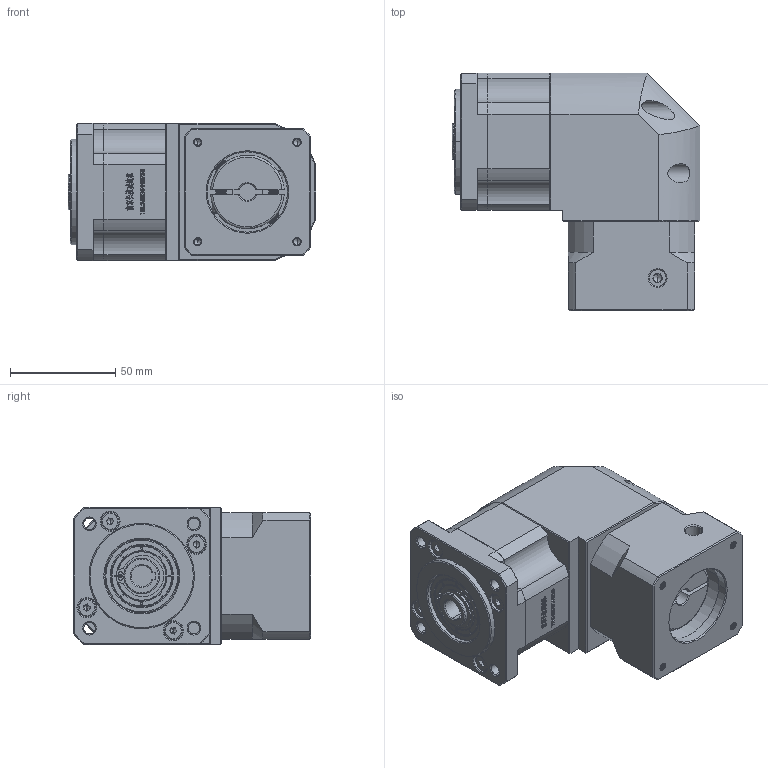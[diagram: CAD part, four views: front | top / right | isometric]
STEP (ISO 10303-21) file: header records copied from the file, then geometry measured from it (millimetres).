
FILE_DESCRIPTION (( 'STEP AP214' ), '1' );
FILE_NAME ('ZBR60-D14-L1-8-38.1-47.14x47.14-M4.STEP', '2022-04-19T08:09:38', ( '' ), ( 'Microsoft' ), 'SwSTEP 2.0', 'SolidWorks 2016', '' );
FILE_SCHEMA (( 'AUTOMOTIVE_DESIGN' ));
Length unit declared in the file: millimetre
Products named in the file (1): ZBR60-D14-L1-8-38.1-47.14x47.14-M4
Bounding box: 117.5 x 112.7 x 65 mm (x, y, z)
Volume: 523978.8 mm3; surface area: 78004.3 mm2
Topology: 5 solids, 5 shells, 2785 faces, 7549 edges, 4904 vertices
Faces by surface type: plane 1470, bspline 572, cylinder 387, cone 324, torus 32
Entity records: 146990 total; most frequent: CARTESIAN_POINT 50177, ORIENTED_EDGE 15042, DIRECTION 11561, EDGE_CURVE 7521, LINE 4989, VECTOR 4989, VERTEX_POINT 4904, AXIS2_PLACEMENT_3D 3286
